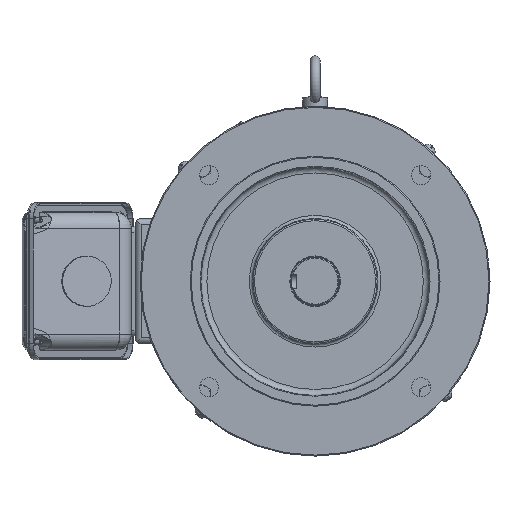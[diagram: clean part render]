
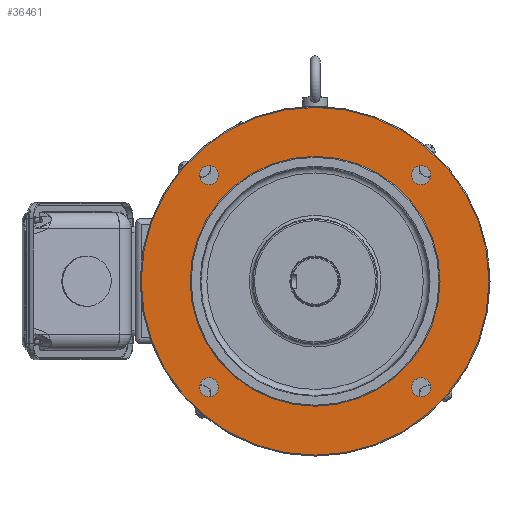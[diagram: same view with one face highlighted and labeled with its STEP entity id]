
A CAD part, front view. The second image highlights one B-rep face of the part: STEP entity #36461.
In plain terms, the highlighted planar face has unit normal (0, -1, 0).
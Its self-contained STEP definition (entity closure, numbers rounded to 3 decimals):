
#3604=CIRCLE('',#38950,9.5);
#3606=CIRCLE('',#38953,9.5);
#3638=CIRCLE('',#39041,125.);
#3641=CIRCLE('',#39046,9.5);
#3643=CIRCLE('',#39049,9.5);
#3726=CIRCLE('',#39174,174.);
#7916=ORIENTED_EDGE('',*,*,#16379,.T.);
#7917=ORIENTED_EDGE('',*,*,#16155,.F.);
#7918=ORIENTED_EDGE('',*,*,#16160,.F.);
#7919=ORIENTED_EDGE('',*,*,#16158,.F.);
#7920=ORIENTED_EDGE('',*,*,#16024,.F.);
#7921=ORIENTED_EDGE('',*,*,#16022,.F.);
#16022=EDGE_CURVE('',#20507,#20507,#3604,.T.);
#16024=EDGE_CURVE('',#20509,#20509,#3606,.T.);
#16155=EDGE_CURVE('',#20622,#20622,#3638,.T.);
#16158=EDGE_CURVE('',#20625,#20625,#3641,.T.);
#16160=EDGE_CURVE('',#20627,#20627,#3643,.T.);
#16379=EDGE_CURVE('',#20802,#20802,#3726,.T.);
#20507=VERTEX_POINT('',#60743);
#20509=VERTEX_POINT('',#60748);
#20622=VERTEX_POINT('',#61585);
#20625=VERTEX_POINT('',#61593);
#20627=VERTEX_POINT('',#61598);
#20802=VERTEX_POINT('',#62440);
#26520=EDGE_LOOP('',(#7916));
#26521=EDGE_LOOP('',(#7917));
#26522=EDGE_LOOP('',(#7918));
#26523=EDGE_LOOP('',(#7919));
#26524=EDGE_LOOP('',(#7920));
#26525=EDGE_LOOP('',(#7921));
#28953=FACE_BOUND('',#26520,.T.);
#28954=FACE_BOUND('',#26521,.T.);
#28955=FACE_BOUND('',#26522,.T.);
#28956=FACE_BOUND('',#26523,.T.);
#28957=FACE_BOUND('',#26524,.T.);
#28958=FACE_BOUND('',#26525,.T.);
#30907=PLANE('',#39173);
#36461=ADVANCED_FACE('',(#28953,#28954,#28955,#28956,#28957,#28958),#30907,
 .T.);
#38950=AXIS2_PLACEMENT_3D('',#60742,#44004,#44005);
#38953=AXIS2_PLACEMENT_3D('',#60747,#44010,#44011);
#39041=AXIS2_PLACEMENT_3D('',#61584,#44226,#44227);
#39046=AXIS2_PLACEMENT_3D('',#61592,#44236,#44237);
#39049=AXIS2_PLACEMENT_3D('',#61597,#44242,#44243);
#39173=AXIS2_PLACEMENT_3D('',#62438,#44566,#44567);
#39174=AXIS2_PLACEMENT_3D('',#62439,#44568,#44569);
#44004=DIRECTION('',(0.,-1.,0.));
#44005=DIRECTION('',(1.,0.,0.));
#44010=DIRECTION('',(0.,-1.,0.));
#44011=DIRECTION('',(0.,0.,-1.));
#44226=DIRECTION('',(0.,-1.,0.));
#44227=DIRECTION('',(1.,0.,0.));
#44236=DIRECTION('',(0.,-1.,0.));
#44237=DIRECTION('',(-1.,0.,0.));
#44242=DIRECTION('',(0.,-1.,0.));
#44243=DIRECTION('',(0.,0.,1.));
#44566=DIRECTION('',(0.,-1.,0.));
#44567=DIRECTION('',(1.,0.,0.));
#44568=DIRECTION('',(0.,-1.,0.));
#44569=DIRECTION('',(1.,0.,0.));
#60742=CARTESIAN_POINT('',(-106.066,5.,106.066));
#60743=CARTESIAN_POINT('',(-96.566,5.,106.066));
#60747=CARTESIAN_POINT('',(106.066,5.,106.066));
#60748=CARTESIAN_POINT('',(106.066,5.,96.566));
#61584=CARTESIAN_POINT('',(0.,5.,0.));
#61585=CARTESIAN_POINT('',(125.,5.,0.));
#61592=CARTESIAN_POINT('',(106.066,5.,-106.066));
#61593=CARTESIAN_POINT('',(96.566,5.,-106.066));
#61597=CARTESIAN_POINT('',(-106.066,5.,-106.066));
#61598=CARTESIAN_POINT('',(-106.066,5.,-96.566));
#62438=CARTESIAN_POINT('',(0.,5.,125.));
#62439=CARTESIAN_POINT('',(0.,5.,0.));
#62440=CARTESIAN_POINT('',(174.,5.,0.));
